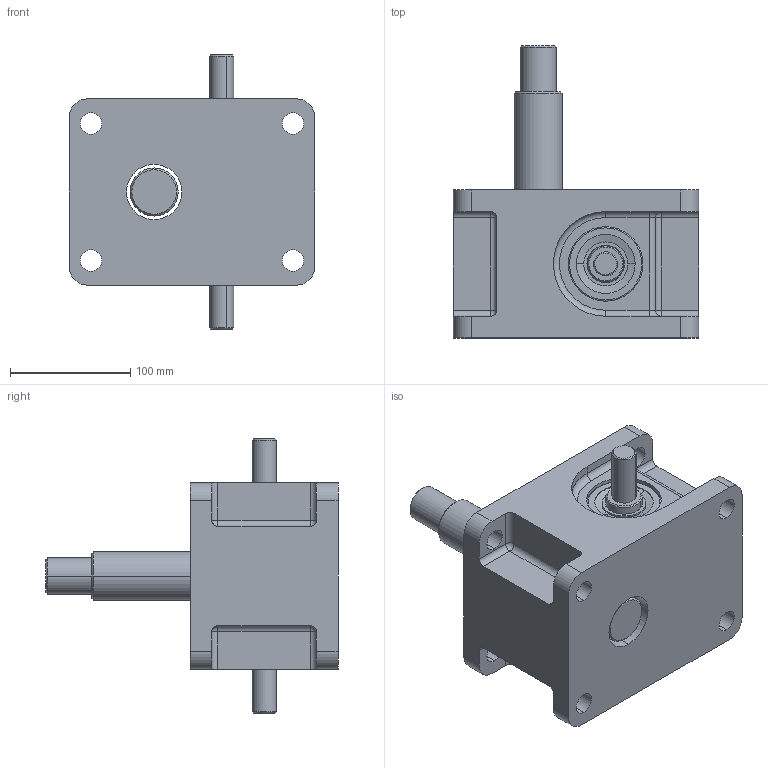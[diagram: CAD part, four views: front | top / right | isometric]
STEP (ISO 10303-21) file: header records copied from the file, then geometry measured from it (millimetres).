
FILE_DESCRIPTION (( 'STEP AP203' ), '1' );
FILE_NAME ('LMR5.0.STEP', '2008-07-31T00:18:28', ( 'Cliente' ), ( 'Home' ), 'SwSTEP 2.0', 'SolidWorks 2008', '' );
FILE_SCHEMA (( 'CONFIG_CONTROL_DESIGN' ));
Length unit declared in the file: millimetre
Products named in the file (6): carcaça_Valor predeterminado; LMR5.0; fuso_Valor predeterminado; sem_fim_Valor predeterminado; Taper Roller Bearing_DIN_DIN 720 - 30206 - 16,SI,NC,16; EspelharTaper Roller Bearing_DIN_DIN 720 - 30206 - 16,SI,NC,16
Assembly tree (5 placements, depth 2):
  LMR5.0
    sem_fim_Valor predeterminado
    EspelharTaper Roller Bearing_DIN_DIN 720 - 30206 - 16,SI,NC,16
    Taper Roller Bearing_DIN_DIN 720 - 30206 - 16,SI,NC,16
    carcaça_Valor predeterminado
    fuso_Valor predeterminado
Bounding box: 204 x 243 x 228 mm (x, y, z)
Volume: 3182960.4 mm3; surface area: 280323.5 mm2
Topology: 5 solids, 5 shells, 207 faces, 471 edges, 277 vertices
Faces by surface type: cylinder 87, cone 54, plane 43, torus 15, sphere 8
Entity records: 6433 total; most frequent: DIRECTION 1149, CARTESIAN_POINT 955, ORIENTED_EDGE 926, AXIS2_PLACEMENT_3D 471, EDGE_CURVE 463, VERTEX_POINT 277, CIRCLE 256, EDGE_LOOP 242
